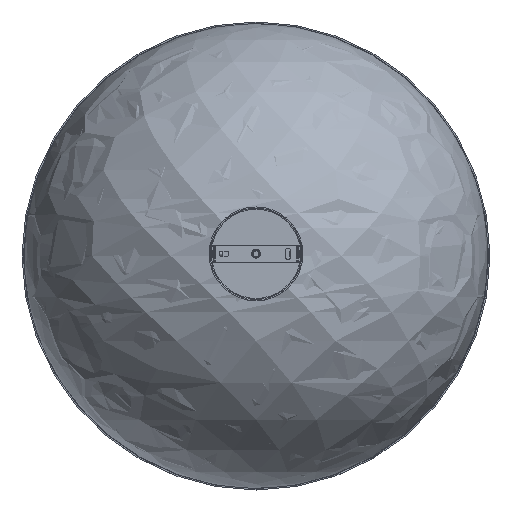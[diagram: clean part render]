
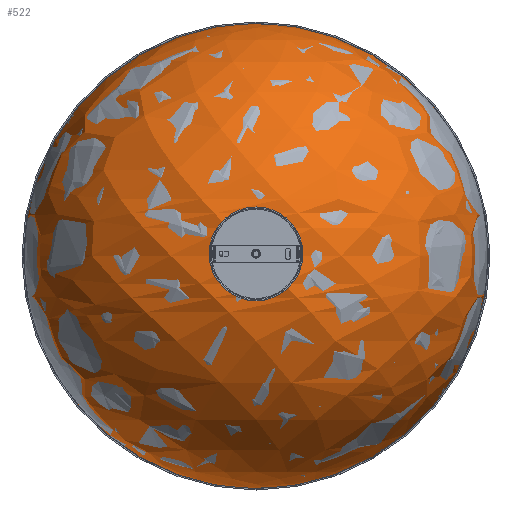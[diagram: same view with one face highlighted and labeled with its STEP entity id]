
A CAD part, top view. The second image highlights one B-rep face of the part: STEP entity #522.
In plain terms, the highlighted free-form (B-spline) face has degree [2, 2] with [5, 5] control points.
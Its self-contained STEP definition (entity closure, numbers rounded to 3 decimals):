
#273=(
BOUNDED_SURFACE()
B_SPLINE_SURFACE(2,2,((#11354,#11355,#11356,#11357,#11358),(#11359,#11360,
#11361,#11362,#11363),(#11364,#11365,#11366,#11367,#11368),(#11369,#11370,
#11371,#11372,#11373),(#11374,#11375,#11376,#11377,#11378)),
 .UNSPECIFIED.,.F.,.F.,.F.)
B_SPLINE_SURFACE_WITH_KNOTS((3,2,3),(3,2,3),(3.142,4.712,
6.283),(4.712,6.283,7.854),
 .UNSPECIFIED.)
GEOMETRIC_REPRESENTATION_ITEM()
RATIONAL_B_SPLINE_SURFACE(((1.,0.707,1.,0.707,1.),
(0.707,0.5,0.707,0.5,0.707),(1.,0.707,
1.,0.707,1.),(0.707,0.5,0.707,0.5,0.707),
(1.,0.707,1.,0.707,1.)))
REPRESENTATION_ITEM('')
SURFACE()
);
#522=ADVANCED_FACE('',(#1050),#273,.T.);
#1050=FACE_OUTER_BOUND('',#1578,.T.);
#1578=EDGE_LOOP('',(#2164,#2165));
#2164=ORIENTED_EDGE('',*,*,#4504,.T.);
#2165=ORIENTED_EDGE('',*,*,#4505,.F.);
#4504=EDGE_CURVE('',#7608,#7609,#5728,.T.);
#4505=EDGE_CURVE('',#7608,#7609,#5729,.T.);
#5728=TRIMMED_CURVE($,#6384,(#11407),(#11408),.T.,.CARTESIAN.);
#5729=TRIMMED_CURVE($,#6385,(#11410),(#11411),.T.,.CARTESIAN.);
#6384=CIRCLE('',#8713,210.5);
#6385=CIRCLE('',#8714,210.5);
#7608=VERTEX_POINT('',#11404);
#7609=VERTEX_POINT('',#11405);
#8713=AXIS2_PLACEMENT_3D($,#11406,#9694,#9695);
#8714=AXIS2_PLACEMENT_3D($,#11409,#9696,#9697);
#9694=DIRECTION('',(0.,0.,1.));
#9695=DIRECTION('',(0.,-1.,0.));
#9696=DIRECTION('',(0.,0.,-1.));
#9697=DIRECTION('',(0.,-1.,0.));
#11354=CARTESIAN_POINT('',(0.,-253.,-1141.349));
#11355=CARTESIAN_POINT('',(-210.5,-253.,-1141.349));
#11356=CARTESIAN_POINT('',(-210.5,-42.5,-1141.349));
#11357=CARTESIAN_POINT('',(-210.5,168.,-1141.349));
#11358=CARTESIAN_POINT('',(0.,168.,-1141.349));
#11359=CARTESIAN_POINT('',(0.,-253.,-1141.349));
#11360=CARTESIAN_POINT('',(-210.5,-253.,-930.849));
#11361=CARTESIAN_POINT('',(-210.5,-42.5,-930.849));
#11362=CARTESIAN_POINT('',(-210.5,168.,-930.849));
#11363=CARTESIAN_POINT('',(0.,168.,-1141.349));
#11364=CARTESIAN_POINT('',(0.,-253.,-1141.349));
#11365=CARTESIAN_POINT('',(0.,-253.,-930.849));
#11366=CARTESIAN_POINT('',(0.,-42.5,-930.849));
#11367=CARTESIAN_POINT('',(0.,168.,-930.849));
#11368=CARTESIAN_POINT('',(0.,168.,-1141.349));
#11369=CARTESIAN_POINT('',(0.,-253.,-1141.349));
#11370=CARTESIAN_POINT('',(210.5,-253.,-930.849));
#11371=CARTESIAN_POINT('',(210.5,-42.5,-930.849));
#11372=CARTESIAN_POINT('',(210.5,168.,-930.849));
#11373=CARTESIAN_POINT('',(0.,168.,-1141.349));
#11374=CARTESIAN_POINT('',(0.,-253.,-1141.349));
#11375=CARTESIAN_POINT('',(210.5,-253.,-1141.349));
#11376=CARTESIAN_POINT('',(210.5,-42.5,-1141.349));
#11377=CARTESIAN_POINT('',(210.5,168.,-1141.349));
#11378=CARTESIAN_POINT('',(0.,168.,-1141.349));
#11404=CARTESIAN_POINT('',(0.,-253.,-1141.349));
#11405=CARTESIAN_POINT('',(0.,168.,-1141.349));
#11406=CARTESIAN_POINT('',(0.,-42.5,-1141.349));
#11407=CARTESIAN_POINT('',(0.,-253.,-1141.349));
#11408=CARTESIAN_POINT('',(0.,168.,-1141.349));
#11409=CARTESIAN_POINT('',(0.,-42.5,-1141.349));
#11410=CARTESIAN_POINT('',(0.,-253.,-1141.349));
#11411=CARTESIAN_POINT('',(0.,168.,-1141.349));
